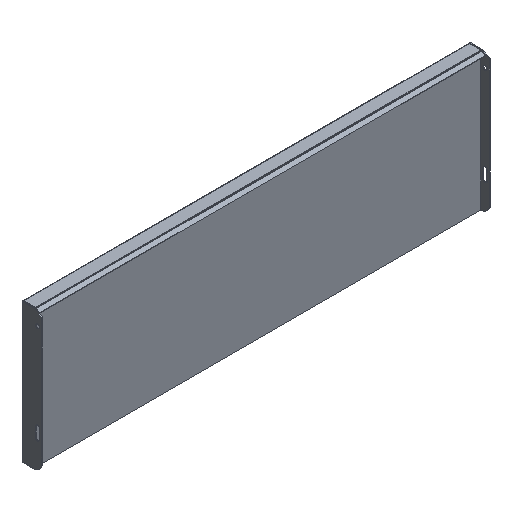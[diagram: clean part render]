
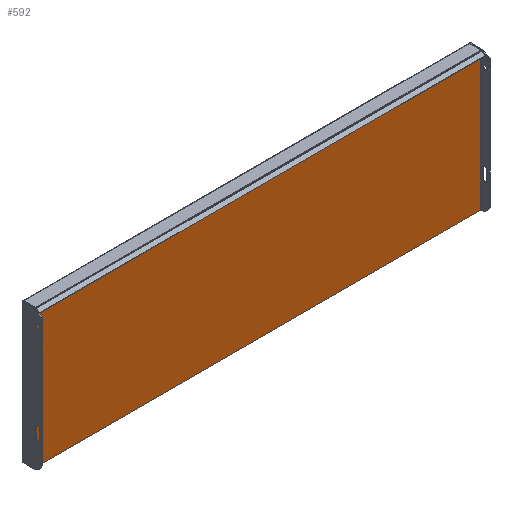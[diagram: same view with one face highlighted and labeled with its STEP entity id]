
A CAD part, isometric view. The second image highlights one B-rep face of the part: STEP entity #592.
In plain terms, the highlighted planar face has unit normal (0, -1, 0).
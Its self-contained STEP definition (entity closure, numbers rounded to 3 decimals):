
#1 = DIRECTION ( 'NONE',  ( -1., 0., 0. ) ) ;
#26 = VECTOR ( 'NONE', #1380, 1000. ) ;
#179 = VECTOR ( 'NONE', #1, 1000. ) ;
#183 = LINE ( 'NONE', #474, #528 ) ;
#336 = CARTESIAN_POINT ( 'NONE',  ( 0., -20., 0. ) ) ;
#380 = VERTEX_POINT ( 'NONE', #1064 ) ;
#453 = DIRECTION ( 'NONE',  ( 0., 0., -1. ) ) ;
#474 = CARTESIAN_POINT ( 'NONE',  ( -797., -20., 247. ) ) ;
#504 = EDGE_CURVE ( 'NONE', #380, #1044, #183, .T. ) ;
#528 = VECTOR ( 'NONE', #1116, 1000. ) ;
#558 = ORIENTED_EDGE ( 'NONE', *, *, #865, .F. ) ;
#578 = FACE_OUTER_BOUND ( 'NONE', #1203, .T. ) ;
#592 = ADVANCED_FACE ( 'NONE', ( #578 ), #595, .T. ) ;
#595 = PLANE ( 'NONE',  #1587 ) ;
#664 = VERTEX_POINT ( 'NONE', #1267 ) ;
#725 = DIRECTION ( 'NONE',  ( 0., -1., 0. ) ) ;
#747 = EDGE_CURVE ( 'NONE', #664, #1517, #1192, .T. ) ;
#801 = CARTESIAN_POINT ( 'NONE',  ( -797., -20., -247. ) ) ;
#831 = VECTOR ( 'NONE', #1093, 1000. ) ;
#851 = ORIENTED_EDGE ( 'NONE', *, *, #504, .F. ) ;
#865 = EDGE_CURVE ( 'NONE', #1044, #664, #1126, .T. ) ;
#877 = CARTESIAN_POINT ( 'NONE',  ( 797., -20., 247. ) ) ;
#909 = ORIENTED_EDGE ( 'NONE', *, *, #1693, .F. ) ;
#952 = LINE ( 'NONE', #1319, #831 ) ;
#994 = CARTESIAN_POINT ( 'NONE',  ( 797., -20., 247. ) ) ;
#1036 = CARTESIAN_POINT ( 'NONE',  ( -797., -20., -247. ) ) ;
#1044 = VERTEX_POINT ( 'NONE', #877 ) ;
#1064 = CARTESIAN_POINT ( 'NONE',  ( -797., -20., 247. ) ) ;
#1093 = DIRECTION ( 'NONE',  ( 0., 0., 1. ) ) ;
#1116 = DIRECTION ( 'NONE',  ( 1., 0., 0. ) ) ;
#1126 = LINE ( 'NONE', #994, #26 ) ;
#1192 = LINE ( 'NONE', #801, #179 ) ;
#1203 = EDGE_LOOP ( 'NONE', ( #558, #851, #909, #1626 ) ) ;
#1267 = CARTESIAN_POINT ( 'NONE',  ( 797., -20., -247. ) ) ;
#1319 = CARTESIAN_POINT ( 'NONE',  ( -797., -20., 247. ) ) ;
#1380 = DIRECTION ( 'NONE',  ( 0., 0., -1. ) ) ;
#1517 = VERTEX_POINT ( 'NONE', #1036 ) ;
#1587 = AXIS2_PLACEMENT_3D ( 'NONE', #336, #725, #453 ) ;
#1626 = ORIENTED_EDGE ( 'NONE', *, *, #747, .F. ) ;
#1693 = EDGE_CURVE ( 'NONE', #1517, #380, #952, .T. ) ;
